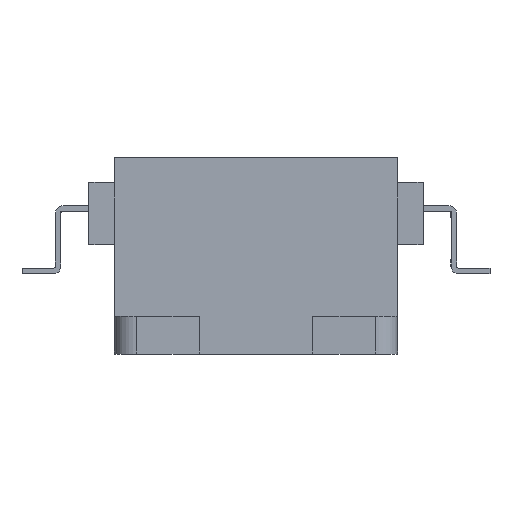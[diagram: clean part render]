
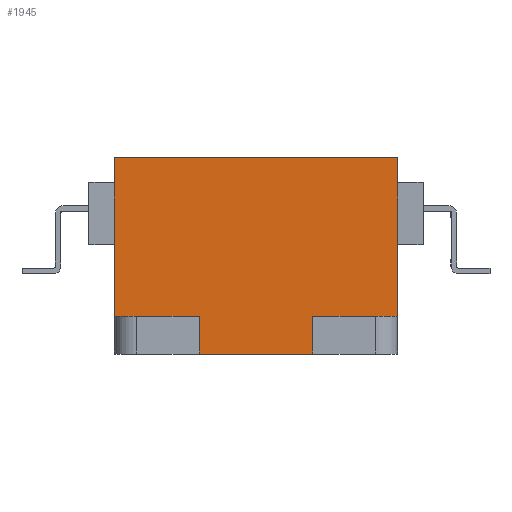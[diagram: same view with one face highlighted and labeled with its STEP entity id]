
A CAD part, left-side view. The second image highlights one B-rep face of the part: STEP entity #1945.
In plain terms, the highlighted planar face has unit normal (-1, 0, 0).
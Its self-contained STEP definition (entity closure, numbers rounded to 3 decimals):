
#1735=PLANE('',#5999);
#1945=ADVANCED_FACE('NONE',(#2217),#1735,.F.);
#2217=FACE_OUTER_BOUND('',#2437,.T.);
#2437=EDGE_LOOP('',(#4440,#4441,#4442,#4443,#4444,#4445,#4446,#4447));
#2763=LINE('',#7977,#3232);
#2769=LINE('',#7991,#3238);
#2917=LINE('',#8307,#3386);
#2926=LINE('',#8325,#3395);
#2927=LINE('',#8327,#3396);
#2928=LINE('',#8329,#3397);
#2929=LINE('',#8330,#3398);
#2930=LINE('',#8331,#3399);
#3232=VECTOR('',#6767,1.);
#3238=VECTOR('',#6775,1.);
#3386=VECTOR('',#7079,1.);
#3395=VECTOR('',#7096,1.);
#3396=VECTOR('',#7099,1.);
#3397=VECTOR('',#7100,1.);
#3398=VECTOR('',#7101,1.);
#3399=VECTOR('',#7102,1.);
#4440=ORIENTED_EDGE('',*,*,#5544,.T.);
#4441=ORIENTED_EDGE('',*,*,#5543,.F.);
#4442=ORIENTED_EDGE('',*,*,#5533,.F.);
#4443=ORIENTED_EDGE('',*,*,#5545,.T.);
#4444=ORIENTED_EDGE('',*,*,#5371,.F.);
#4445=ORIENTED_EDGE('',*,*,#5546,.F.);
#4446=ORIENTED_EDGE('',*,*,#5377,.T.);
#4447=ORIENTED_EDGE('',*,*,#5547,.T.);
#4877=VERTEX_POINT('',#7978);
#4878=VERTEX_POINT('',#7979);
#4883=VERTEX_POINT('',#7990);
#4884=VERTEX_POINT('',#7992);
#4973=VERTEX_POINT('',#8306);
#4974=VERTEX_POINT('',#8308);
#4977=VERTEX_POINT('',#8322);
#4979=VERTEX_POINT('',#8328);
#5371=EDGE_CURVE('NONE',#4877,#4878,#2763,.T.);
#5377=EDGE_CURVE('NONE',#4884,#4883,#2769,.T.);
#5533=EDGE_CURVE('NONE',#4973,#4974,#2917,.T.);
#5543=EDGE_CURVE('NONE',#4974,#4977,#2926,.T.);
#5544=EDGE_CURVE('NONE',#4979,#4977,#2927,.T.);
#5545=EDGE_CURVE('NONE',#4973,#4878,#2928,.T.);
#5546=EDGE_CURVE('NONE',#4884,#4877,#2929,.T.);
#5547=EDGE_CURVE('NONE',#4883,#4979,#2930,.T.);
#5999=AXIS2_PLACEMENT_3D('',#8332,#7103,#7104);
#6767=DIRECTION('',(0.,0.,1.));
#6775=DIRECTION('',(0.,0.,1.));
#7079=DIRECTION('',(0.,0.,1.));
#7096=DIRECTION('',(0.,-1.,0.));
#7099=DIRECTION('',(0.,0.,1.));
#7100=DIRECTION('',(0.,-1.,0.));
#7101=DIRECTION('',(0.,1.,0.));
#7102=DIRECTION('',(0.,-1.,0.));
#7103=DIRECTION('',(1.,0.,0.));
#7104=DIRECTION('',(0.,0.,-1.));
#7977=CARTESIAN_POINT('',(17.775,-32.937,-5.267));
#7978=CARTESIAN_POINT('',(17.775,-32.937,3.033));
#7979=CARTESIAN_POINT('',(17.775,-32.937,4.733));
#7990=CARTESIAN_POINT('',(17.775,-38.037,4.733));
#7991=CARTESIAN_POINT('',(17.775,-38.037,-5.267));
#7992=CARTESIAN_POINT('',(17.775,-38.037,3.033));
#8306=CARTESIAN_POINT('',(17.775,-29.137,4.733));
#8307=CARTESIAN_POINT('',(17.775,-29.137,11.833));
#8308=CARTESIAN_POINT('',(17.775,-29.137,11.833));
#8322=CARTESIAN_POINT('',(17.775,-41.837,11.833));
#8325=CARTESIAN_POINT('',(17.775,-29.137,11.833));
#8327=CARTESIAN_POINT('',(17.775,-41.837,11.833));
#8328=CARTESIAN_POINT('',(17.775,-41.837,4.733));
#8329=CARTESIAN_POINT('',(17.775,-29.137,4.733));
#8330=CARTESIAN_POINT('',(17.775,-29.137,3.033));
#8331=CARTESIAN_POINT('',(17.775,-29.137,4.733));
#8332=CARTESIAN_POINT('',(17.775,-29.137,11.833));
